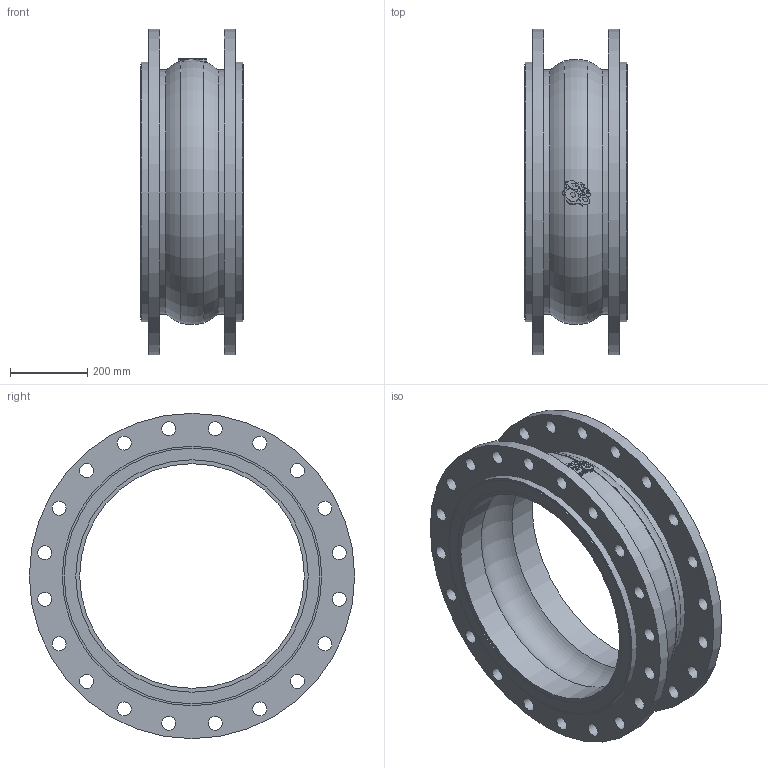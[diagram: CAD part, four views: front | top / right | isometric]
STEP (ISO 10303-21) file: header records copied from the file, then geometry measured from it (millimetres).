
FILE_DESCRIPTION(('STEP AP203'), '1');
FILE_NAME('3D_501-600-EPDM-FF', '', ('UNSPECIFIED'), ('UNSPECIFIED'), 'C3D Converter', 'C3D Toolkit', '');
FILE_SCHEMA(('CONFIG_CONTROL_DESIGN'));
Length unit declared in the file: millimetre
Bounding box: 265 x 840 x 840 mm (x, y, z)
Volume: 27935407.6 mm3; surface area: 2284453.3 mm2
Topology: 9 solids, 9 shells, 897 faces, 2633 edges, 1762 vertices
Faces by surface type: plane 839, cylinder 52, torus 6
Full cylindrical faces by diameter (mm): 36 x40, 580 x2, 600 x2, 630 x2, 660 x2, 670 x2, 840 x2
Entity records: 36480 total; most frequent: CARTESIAN_POINT 5235, ORIENTED_EDGE 5150, DIRECTION 4507, EDGE_CURVE 2575, LINE 2439, VECTOR 2439, VERTEX_POINT 1762, EDGE_LOOP 1057
